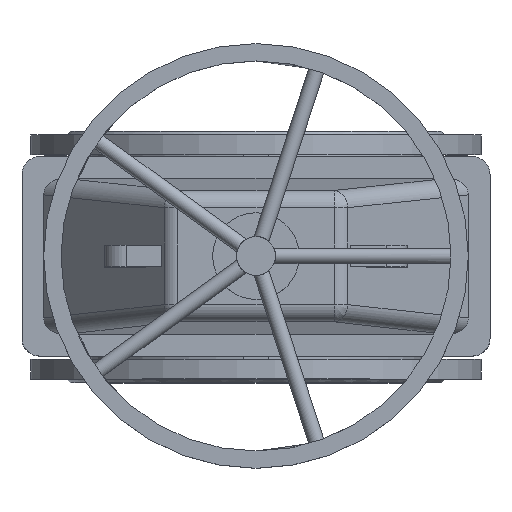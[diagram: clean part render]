
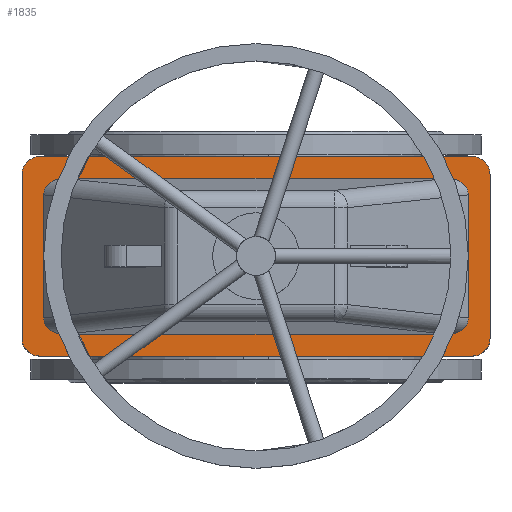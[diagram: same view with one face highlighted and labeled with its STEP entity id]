
A CAD part, top view. The second image highlights one B-rep face of the part: STEP entity #1835.
In plain terms, the highlighted planar face has unit normal (0, 0, 1).
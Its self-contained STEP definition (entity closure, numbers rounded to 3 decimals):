
#1835=ADVANCED_FACE('',(#4192,#4194),#4196,.T.);
#4192=FACE_BOUND('',#4193,.T.);
#4193=EDGE_LOOP('',(#7099,#7100,#7101,#7102,#7103,#7104,#7105,#7106));
#4194=FACE_BOUND('',#4195,.T.);
#4195=EDGE_LOOP('',(#7107,#7108,#7109,#7110,#7111,#7112,#7113,#7114));
#4196=PLANE('',#4197);
#4197=AXIS2_PLACEMENT_3D('',#4198,#4199,#4200);
#4198=CARTESIAN_POINT('',(0.,0.,496.));
#4199=DIRECTION('',(0.,-0.,1.));
#4200=DIRECTION('',(0.,1.,0.));
#7099=ORIENTED_EDGE('',*,*,#8142,.F.);
#7100=ORIENTED_EDGE('',*,*,#8138,.T.);
#7101=ORIENTED_EDGE('',*,*,#8143,.F.);
#7102=ORIENTED_EDGE('',*,*,#8135,.T.);
#7103=ORIENTED_EDGE('',*,*,#8144,.F.);
#7104=ORIENTED_EDGE('',*,*,#8132,.T.);
#7105=ORIENTED_EDGE('',*,*,#8145,.F.);
#7106=ORIENTED_EDGE('',*,*,#8140,.T.);
#7107=ORIENTED_EDGE('',*,*,#8146,.F.);
#7108=ORIENTED_EDGE('',*,*,#8147,.F.);
#7109=ORIENTED_EDGE('',*,*,#8148,.F.);
#7110=ORIENTED_EDGE('',*,*,#8149,.F.);
#7111=ORIENTED_EDGE('',*,*,#8150,.F.);
#7112=ORIENTED_EDGE('',*,*,#8151,.F.);
#7113=ORIENTED_EDGE('',*,*,#8152,.F.);
#7114=ORIENTED_EDGE('',*,*,#8153,.F.);
#8132=EDGE_CURVE('',#9393,#9395,#9397,.T.);
#8135=EDGE_CURVE('',#9398,#9400,#9402,.T.);
#8138=EDGE_CURVE('',#9403,#9405,#9407,.T.);
#8140=EDGE_CURVE('',#9410,#9408,#9411,.T.);
#8142=EDGE_CURVE('',#9403,#9408,#9413,.F.);
#8143=EDGE_CURVE('',#9398,#9405,#9414,.F.);
#8144=EDGE_CURVE('',#9393,#9400,#9415,.F.);
#8145=EDGE_CURVE('',#9410,#9395,#9416,.F.);
#8146=EDGE_CURVE('',#9417,#9418,#9419,.F.);
#8147=EDGE_CURVE('',#9420,#9417,#9421,.T.);
#8148=EDGE_CURVE('',#9422,#9420,#9423,.T.);
#8149=EDGE_CURVE('',#9424,#9422,#9425,.T.);
#8150=EDGE_CURVE('',#9426,#9424,#9427,.F.);
#8151=EDGE_CURVE('',#9428,#9426,#9429,.T.);
#8152=EDGE_CURVE('',#9430,#9428,#9431,.T.);
#8153=EDGE_CURVE('',#9418,#9430,#9432,.T.);
#9393=VERTEX_POINT('',#12746);
#9395=VERTEX_POINT('',#12750);
#9397=LINE('',#12754,#12755);
#9398=VERTEX_POINT('',#12757);
#9400=VERTEX_POINT('',#12761);
#9402=LINE('',#12765,#12766);
#9403=VERTEX_POINT('',#12768);
#9405=VERTEX_POINT('',#12772);
#9407=LINE('',#12776,#12777);
#9408=VERTEX_POINT('',#12779);
#9410=VERTEX_POINT('',#12783);
#9411=LINE('',#12784,#12785);
#9413=CIRCLE('',#12790,20.);
#9414=CIRCLE('',#12794,20.);
#9415=CIRCLE('',#12798,20.);
#9416=CIRCLE('',#12802,20.);
#9417=VERTEX_POINT('',#12806);
#9418=VERTEX_POINT('',#12807);
#9419=(BOUNDED_CURVE()B_SPLINE_CURVE(3,
(#12808,#12809,#12810,#12811),
.UNSPECIFIED.,.F.,.F.)B_SPLINE_CURVE_WITH_KNOTS((4,4),
(0.,1.),
.UNSPECIFIED.)CURVE()GEOMETRIC_REPRESENTATION_ITEM()RATIONAL_B_SPLINE_CURVE((1.,
0.817,0.817,1.))REPRESENTATION_ITEM(''));
#9420=VERTEX_POINT('',#12812);
#9421=LINE('',#12813,#12814);
#9422=VERTEX_POINT('',#12816);
#9423=(BOUNDED_CURVE()B_SPLINE_CURVE(3,
(#12817,#12818,#12819,#12820),
.UNSPECIFIED.,.F.,.F.)B_SPLINE_CURVE_WITH_KNOTS((4,4),
(0.,1.),
.UNSPECIFIED.)CURVE()GEOMETRIC_REPRESENTATION_ITEM()RATIONAL_B_SPLINE_CURVE((1.,
0.817,0.817,1.))REPRESENTATION_ITEM(''));
#9424=VERTEX_POINT('',#12821);
#9425=LINE('',#12822,#12823);
#9426=VERTEX_POINT('',#12825);
#9427=(BOUNDED_CURVE()B_SPLINE_CURVE(3,
(#12826,#12827,#12828,#12829),
.UNSPECIFIED.,.F.,.F.)B_SPLINE_CURVE_WITH_KNOTS((4,4),
(0.,1.),
.UNSPECIFIED.)CURVE()GEOMETRIC_REPRESENTATION_ITEM()RATIONAL_B_SPLINE_CURVE((1.,
0.817,0.817,1.))REPRESENTATION_ITEM(''));
#9428=VERTEX_POINT('',#12830);
#9429=LINE('',#12831,#12832);
#9430=VERTEX_POINT('',#12834);
#9431=(BOUNDED_CURVE()B_SPLINE_CURVE(3,
(#12835,#12836,#12837,#12838),
.UNSPECIFIED.,.F.,.F.)B_SPLINE_CURVE_WITH_KNOTS((4,4),
(0.,1.),
.UNSPECIFIED.)CURVE()GEOMETRIC_REPRESENTATION_ITEM()RATIONAL_B_SPLINE_CURVE((1.,
0.817,0.817,1.))REPRESENTATION_ITEM(''));
#9432=LINE('',#12839,#12840);
#12746=CARTESIAN_POINT('',(250.,115.,496.));
#12750=CARTESIAN_POINT('',(-250.,115.,496.));
#12754=CARTESIAN_POINT('',(250.,115.,496.));
#12755=VECTOR('',#12756,1.);
#12756=DIRECTION('',(-1.,0.,0.));
#12757=CARTESIAN_POINT('',(270.,-95.,496.));
#12761=CARTESIAN_POINT('',(270.,95.,496.));
#12765=CARTESIAN_POINT('',(270.,-95.,496.));
#12766=VECTOR('',#12767,1.);
#12767=DIRECTION('',(0.,1.,0.));
#12768=CARTESIAN_POINT('',(-250.,-115.,496.));
#12772=CARTESIAN_POINT('',(250.,-115.,496.));
#12776=CARTESIAN_POINT('',(-250.,-115.,496.));
#12777=VECTOR('',#12778,1.);
#12778=DIRECTION('',(1.,0.,0.));
#12779=CARTESIAN_POINT('',(-270.,-95.,496.));
#12783=CARTESIAN_POINT('',(-270.,95.,496.));
#12784=CARTESIAN_POINT('',(-270.,95.,496.));
#12785=VECTOR('',#12786,1.);
#12786=DIRECTION('',(0.,-1.,0.));
#12790=AXIS2_PLACEMENT_3D('',#12791,#12792,#12793);
#12791=CARTESIAN_POINT('',(-250.,-95.,496.));
#12792=DIRECTION('',(0.,-0.,1.));
#12793=DIRECTION('',(-1.,0.,0.));
#12794=AXIS2_PLACEMENT_3D('',#12795,#12796,#12797);
#12795=CARTESIAN_POINT('',(250.,-95.,496.));
#12796=DIRECTION('',(0.,-0.,1.));
#12797=DIRECTION('',(0.,-1.,0.));
#12798=AXIS2_PLACEMENT_3D('',#12799,#12800,#12801);
#12799=CARTESIAN_POINT('',(250.,95.,496.));
#12800=DIRECTION('',(0.,-0.,1.));
#12801=DIRECTION('',(1.,0.,0.));
#12802=AXIS2_PLACEMENT_3D('',#12803,#12804,#12805);
#12803=CARTESIAN_POINT('',(-250.,95.,496.));
#12804=DIRECTION('',(0.,-0.,1.));
#12805=DIRECTION('',(0.,1.,0.));
#12806=CARTESIAN_POINT('',(-245.,-71.021,496.));
#12807=CARTESIAN_POINT('',(-220.722,-90.,496.));
#12808=CARTESIAN_POINT('',(-220.722,-90.,496.));
#12809=CARTESIAN_POINT('',(-235.1,-90.,496.));
#12810=CARTESIAN_POINT('',(-245.,-82.261,496.));
#12811=CARTESIAN_POINT('',(-245.,-71.021,496.));
#12812=CARTESIAN_POINT('',(-245.,71.021,496.));
#12813=CARTESIAN_POINT('',(-245.,71.021,496.));
#12814=VECTOR('',#12815,1.);
#12815=DIRECTION('',(0.,-1.,0.));
#12816=CARTESIAN_POINT('',(-220.722,90.,496.));
#12817=CARTESIAN_POINT('',(-220.722,90.,496.));
#12818=CARTESIAN_POINT('',(-235.1,90.,496.));
#12819=CARTESIAN_POINT('',(-245.,82.261,496.));
#12820=CARTESIAN_POINT('',(-245.,71.021,496.));
#12821=CARTESIAN_POINT('',(220.722,90.,496.));
#12822=CARTESIAN_POINT('',(220.722,90.,496.));
#12823=VECTOR('',#12824,1.);
#12824=DIRECTION('',(-1.,0.,0.));
#12825=CARTESIAN_POINT('',(245.,71.021,496.));
#12826=CARTESIAN_POINT('',(220.722,90.,496.));
#12827=CARTESIAN_POINT('',(235.1,90.,496.));
#12828=CARTESIAN_POINT('',(245.,82.261,496.));
#12829=CARTESIAN_POINT('',(245.,71.021,496.));
#12830=CARTESIAN_POINT('',(245.,-71.021,496.));
#12831=CARTESIAN_POINT('',(245.,-71.021,496.));
#12832=VECTOR('',#12833,1.);
#12833=DIRECTION('',(0.,1.,0.));
#12834=CARTESIAN_POINT('',(220.722,-90.,496.));
#12835=CARTESIAN_POINT('',(220.722,-90.,496.));
#12836=CARTESIAN_POINT('',(235.1,-90.,496.));
#12837=CARTESIAN_POINT('',(245.,-82.261,496.));
#12838=CARTESIAN_POINT('',(245.,-71.021,496.));
#12839=CARTESIAN_POINT('',(-220.722,-90.,496.));
#12840=VECTOR('',#12841,1.);
#12841=DIRECTION('',(1.,0.,0.));
